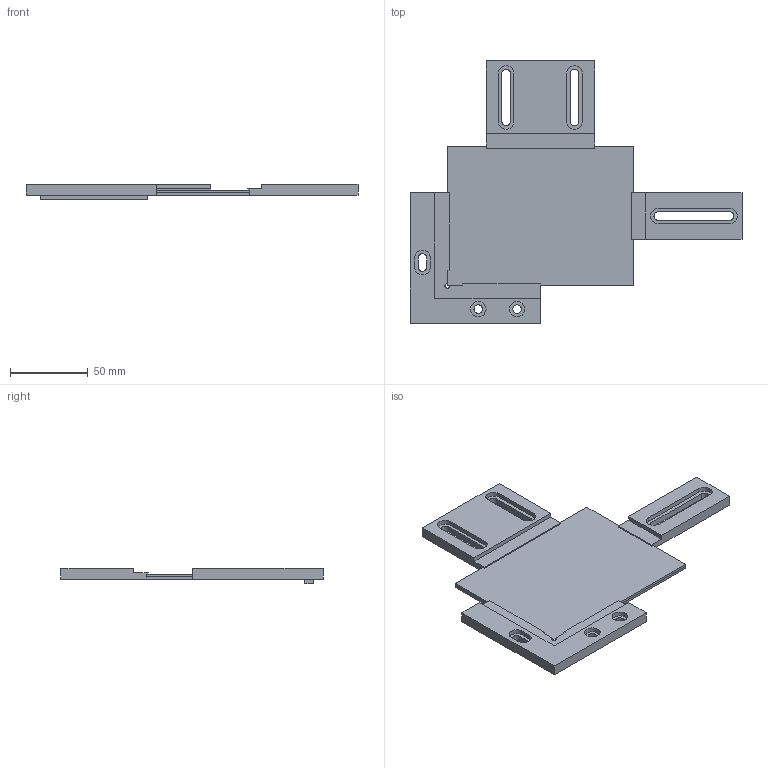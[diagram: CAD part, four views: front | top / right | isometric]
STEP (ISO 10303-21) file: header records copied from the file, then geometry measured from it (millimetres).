
FILE_DESCRIPTION(/* description */ (''),/* implementation_level */ '2;1');
FILE_NAME(/* name */ 'pcb-holder.step',/* time_stamp */ '2026-11-22T21:41:43+02:00',/* author */ (''),/* organization */ (''),/* preprocessor_version */ 'ST-DEVELOPER v20.2',/* originating_system */ 'Autodesk Translation Framework v15.17.0.0',/* authorisation */ '');
FILE_SCHEMA (('AUTOMOTIVE_DESIGN { 1 0 10303 214 3 1 1 }'));
Length unit declared in the file: millimetre
Products named in the file (1): 2026-11-22-21-41-43-401
Bounding box: 214 x 169 x 9.9 mm (x, y, z)
Volume: 88244.7 mm3; surface area: 71955.8 mm2
Topology: 6 solids, 6 shells, 105 faces, 258 edges, 172 vertices
Faces by surface type: plane 82, cylinder 23
Full cylindrical faces by diameter (mm): 5.5 x4, 10 x2
Entity records: 3159 total; most frequent: CARTESIAN_POINT 536, ORIENTED_EDGE 516, DIRECTION 516, EDGE_CURVE 258, LINE 212, VECTOR 212, VERTEX_POINT 172, AXIS2_PLACEMENT_3D 152
